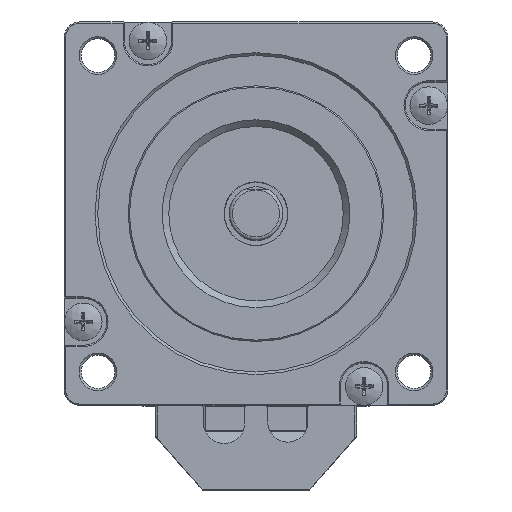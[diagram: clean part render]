
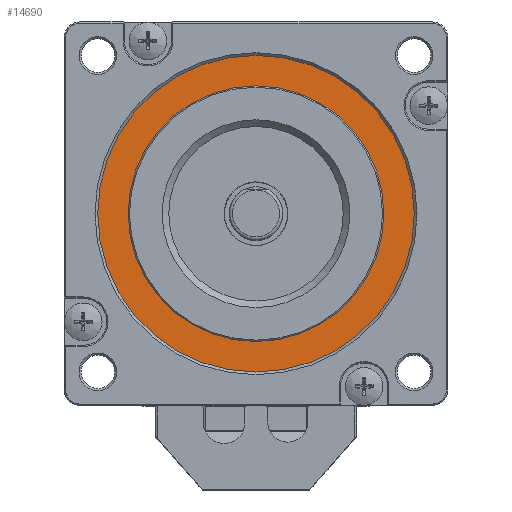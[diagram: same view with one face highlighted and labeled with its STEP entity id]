
A CAD part, top view. The second image highlights one B-rep face of the part: STEP entity #14690.
In plain terms, the highlighted planar face has unit normal (0, 0, 1).
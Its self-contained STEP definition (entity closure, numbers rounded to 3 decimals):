
#514 = ORIENTED_EDGE ( 'NONE', *, *, #9968, .F. ) ;
#593 = FACE_BOUND ( 'NONE', #18984, .T. ) ;
#1285 = CIRCLE ( 'NONE', #21847, 23.6 ) ;
#2617 = EDGE_LOOP ( 'NONE', ( #18220 ) ) ;
#3150 = CIRCLE ( 'NONE', #11185, 19.05 ) ;
#5701 = CARTESIAN_POINT ( 'NONE',  ( 0., 0., 10.6 ) ) ;
#6284 = DIRECTION ( 'NONE',  ( 0., 0., 1. ) ) ;
#6764 = CARTESIAN_POINT ( 'NONE',  ( 19.05, 0., 10.6 ) ) ;
#8701 = DIRECTION ( 'NONE',  ( 0., 0., 1. ) ) ;
#9217 = PLANE ( 'NONE',  #13189 ) ;
#9348 = FACE_OUTER_BOUND ( 'NONE', #2617, .T. ) ;
#9968 = EDGE_CURVE ( 'NONE', #19406, #19406, #3150, .T. ) ;
#10280 = EDGE_CURVE ( 'NONE', #20478, #20478, #1285, .T. ) ;
#11185 = AXIS2_PLACEMENT_3D ( 'NONE', #12042, #8701, #17194 ) ;
#12042 = CARTESIAN_POINT ( 'NONE',  ( 0., 0., 10.6 ) ) ;
#12976 = DIRECTION ( 'NONE',  ( 1., 0., 0. ) ) ;
#13189 = AXIS2_PLACEMENT_3D ( 'NONE', #5701, #19444, #17418 ) ;
#13539 = CARTESIAN_POINT ( 'NONE',  ( 23.6, 0., 10.6 ) ) ;
#14690 = ADVANCED_FACE ( 'NONE', ( #593, #9348 ), #9217, .T. ) ;
#17194 = DIRECTION ( 'NONE',  ( 1., 0., 0. ) ) ;
#17418 = DIRECTION ( 'NONE',  ( 1., 0., 0. ) ) ;
#18220 = ORIENTED_EDGE ( 'NONE', *, *, #10280, .T. ) ;
#18984 = EDGE_LOOP ( 'NONE', ( #514 ) ) ;
#19406 = VERTEX_POINT ( 'NONE', #6764 ) ;
#19444 = DIRECTION ( 'NONE',  ( 0., 0., 1. ) ) ;
#20017 = CARTESIAN_POINT ( 'NONE',  ( 0., 0., 10.6 ) ) ;
#20478 = VERTEX_POINT ( 'NONE', #13539 ) ;
#21847 = AXIS2_PLACEMENT_3D ( 'NONE', #20017, #6284, #12976 ) ;
